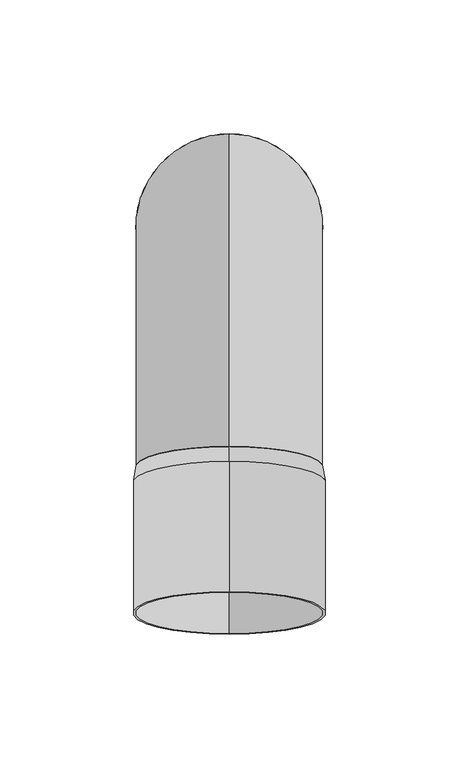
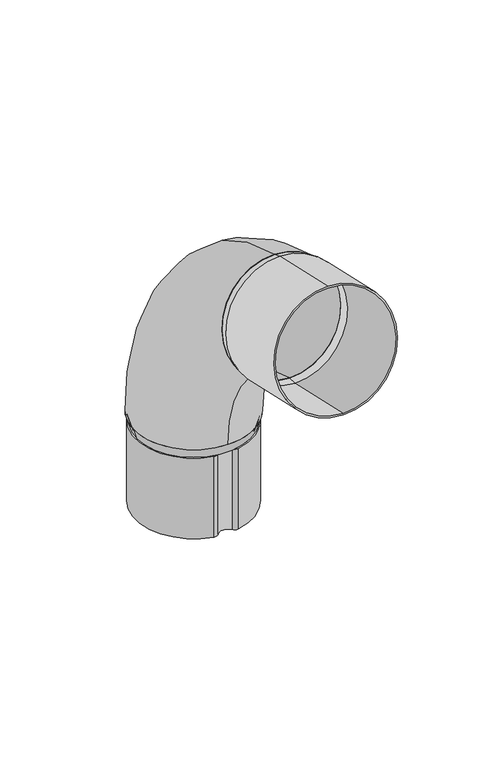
"""IFC4 building model written with IfcOpenShell, lengths in millimetres: proxy geometry, GROVIK_Downpipe_Elbow : N70_75°_Up."""

from ifc_helpers import new_model, si_unit, point, frame, frame_2d, origin, origin_with_axes, origin_2d, place, context, project, spatial, polyline, circle_curve, ellipse_curve, trimmed, segment, composite_curve, outline, extrude, source, transform, mapped, element, save
from ifc_brep_helpers import plane_surface, revolved_surface, advanced_brep


def generic_models_6aef1a14(model_context):
    return source(origin(), model_context, "Body", "SolidModel", [
        advanced_brep(
        [(0.0, 35.0, 0.0), (0.0, -35.0, 0.0), (0.0, 34.0, 0.0), (0.0, -34.0, 0.0), (0.0, -82.0, 146.3249808), (0.0, -97.4, 78.0399897), (0.0, -82.22, 145.3494809), (0.0, -97.18, 79.0154896)],
        [
            (0, 1, circle_curve(frame((0.0, 0.0, 0.0), z_axis=(0.0, 0.0, -1.0), x_axis=(0.0, -1.0, 0.0)), 35.0)),
            (1, 0, circle_curve(frame((0.0, 0.0, 0.0), z_axis=(0.0, 0.0, -1.0), x_axis=(0.0, -1.0, 0.0)), 35.0)),
            (2, 3, circle_curve(frame((0.0, 0.0, 0.0), z_axis=(0.0, 0.0, 1.0), x_axis=(0.0, -1.0, 0.0)), 34.0)),
            (3, 2, circle_curve(frame((0.0, 0.0, 0.0), z_axis=(0.0, 0.0, 1.0), x_axis=(0.0, -1.0, 0.0)), 34.0)),
            (4, 5, circle_curve(frame((0.0, -89.7, 112.1824853), z_axis=(0.0, -0.9754998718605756, 0.22000000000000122), x_axis=(0.0, -0.22000000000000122, -0.9754998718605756)), 35.0)),
            (5, 4, circle_curve(frame((0.0, -89.7, 112.1824853), z_axis=(0.0, -0.9754998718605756, 0.22000000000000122), x_axis=(0.0, -0.22000000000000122, -0.9754998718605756)), 35.0)),
            (6, 7, circle_curve(frame((0.0, -89.7, 112.1824853), z_axis=(0.0, 0.9754998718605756, -0.22000000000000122), x_axis=(0.0, -0.22000000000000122, -0.9754998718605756)), 34.0)),
            (7, 6, circle_curve(frame((0.0, -89.7, 112.1824853), z_axis=(0.0, 0.9754998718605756, -0.22000000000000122), x_axis=(0.0, -0.22000000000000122, -0.9754998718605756)), 34.0)),
            (7, 3, circle_curve(frame((0.0, -115.0, 0.0), z_axis=(-1.0, 0.0, 0.0), x_axis=(0.0, 1.0, 0.0)), 81.0)),
            (2, 6, circle_curve(frame((0.0, -115.0, 0.0), z_axis=(1.0, 0.0, 0.0), x_axis=(0.0, 1.0, 0.0)), 149.0)),
            (5, 1, circle_curve(frame((0.0, -115.0, 0.0), z_axis=(-1.0, 0.0, 0.0), x_axis=(0.0, 1.0, 0.0)), 80.0)),
            (0, 4, circle_curve(frame((0.0, -115.0, 0.0), z_axis=(1.0, 0.0, 0.0), x_axis=(0.0, 1.0, 0.0)), 150.0)),
        ],
        [
            plane_surface(frame((0.0, 0.0, 0.0), z_axis=(0.0, 0.0, -1.0), x_axis=(1.0, 0.0, 0.0))),
            plane_surface(frame((0.0, -89.7, 112.1824853), z_axis=(0.0, -0.9754998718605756, 0.22000000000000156), x_axis=(1.0, 0.0, 0.0))),
            revolved_surface(trimmed(ellipse_curve(frame((0.0, 0.0, 0.0), z_axis=(0.0, 0.0, 1.0), x_axis=(0.0, -1.0, 0.0)), 34.0, 34.0), [point((0.0, 34.0, 0.0))], [point((0.0, -34.0, 0.0))], True, "CARTESIAN"), (0.0, -115.0, 0.0), (1.0, 0.0, 0.0)),
            revolved_surface(trimmed(ellipse_curve(frame((0.0, 0.0, 0.0), z_axis=(0.0, 0.0, 1.0), x_axis=(0.0, -1.0, 0.0)), 34.0, 34.0), [point((0.0, -34.0, 0.0))], [point((0.0, 34.0, 0.0))], True, "CARTESIAN"), (0.0, -115.0, 0.0), (1.0, 0.0, 0.0)),
            revolved_surface(trimmed(ellipse_curve(frame((0.0, 0.0, 0.0), z_axis=(0.0, 0.0, -1.0), x_axis=(0.0, -1.0, 0.0)), 35.0, 35.0), [point((0.0, 35.0, 0.0))], [point((0.0, -35.0, 0.0))], True, "CARTESIAN"), (0.0, -115.0, 0.0), (1.0, 0.0, 0.0)),
            revolved_surface(trimmed(ellipse_curve(frame((0.0, 0.0, 0.0), z_axis=(0.0, 0.0, -1.0), x_axis=(0.0, -1.0, 0.0)), 35.0, 35.0), [point((0.0, -35.0, 0.0))], [point((0.0, 35.0, 0.0))], True, "CARTESIAN"), (0.0, -115.0, 0.0), (1.0, 0.0, 0.0)),
        ],
        [
            (0, [[1, 2], [3, 4]]),
            (1, [[5, 6], [7, 8]]),
            (2, [[9, -3, 10, -8]]),
            (3, [[-10, -4, -9, -7]]),
            (4, [[11, -1, 12, -6]]),
            (5, [[-12, -2, -11, -5]]),
        ],
    ),
        extrude(outline(composite_curve([segment(trimmed(circle_curve(origin_2d(), 36.0), [point((0.0, -36.0))], [point((0.0, 36.0))], False, "CARTESIAN"), True, "CONTINUOUS"), segment(trimmed(circle_curve(origin_2d(), 36.0), [point((0.0, 36.0))], [point((0.0, -36.0))], False, "CARTESIAN"), True, "CONTINUOUS")], self_intersect=False), holes=[composite_curve([segment(trimmed(circle_curve(origin_2d(), 35.0), [point((0.0, -35.0000001))], [point((0.0, 35.0))], True, "CARTESIAN"), True, "CONTINUOUS"), segment(trimmed(circle_curve(origin_2d(), 35.0), [point((0.0, 35.0))], [point((0.0, -35.0000001))], True, "CARTESIAN"), True, "CONTINUOUS")], self_intersect=False)]), frame((0.0, -95.5529992, 113.5024853), z_axis=(0.0, -0.975499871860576, 0.2199999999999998), x_axis=(1.0, 0.0, 0.0)), (0.0, 0.0, 1.0), 50.0),
        advanced_brep(
        [(-33.2, 0.0, -6.0), (33.2, 0.0, -6.0), (-32.2, 0.0, -6.0), (32.2, 0.0, -6.0), (-35.0, 0.0, 0.0), (35.0, 0.0, 0.0), (34.0, 0.0, 0.0), (-34.0, 0.0, 0.0)],
        [
            (0, 1, circle_curve(frame((0.0, 0.0, -6.0), z_axis=(0.0, 0.0, -1.0), x_axis=(-1.0, 0.0, 0.0)), 33.2)),
            (1, 0, circle_curve(frame((0.0, 0.0, -6.0), z_axis=(0.0, 0.0, -1.0), x_axis=(1.0, 0.0, 0.0)), 33.2)),
            (2, 3, circle_curve(frame((0.0, 0.0, -6.0), z_axis=(0.0, 0.0, 1.0), x_axis=(1.0, 0.0, 0.0)), 32.2)),
            (3, 2, circle_curve(frame((0.0, 0.0, -6.0), z_axis=(0.0, 0.0, 1.0), x_axis=(-1.0, 0.0, 0.0)), 32.2)),
            (4, 5, circle_curve(origin_with_axes(), 35.0)),
            (5, 4, circle_curve(frame((0.0, 0.0, 0.0), z_axis=(0.0, 0.0, 1.0), x_axis=(-1.0, 0.0, 0.0)), 35.0)),
            (6, 7, circle_curve(frame((0.0, 0.0, 0.0), z_axis=(0.0, 0.0, -1.0), x_axis=(1.0, 0.0, 0.0)), 34.0)),
            (7, 6, circle_curve(frame((0.0, 0.0, 0.0), z_axis=(0.0, 0.0, -1.0), x_axis=(-1.0, 0.0, 0.0)), 34.0)),
            (1, 5),
            (4, 0),
            (6, 3),
            (2, 7),
        ],
        [
            plane_surface(frame((0.0, 0.0, -6.0), z_axis=(0.0, 0.0, -1.0), x_axis=(0.0, 1.0, 0.0))),
            plane_surface(frame((0.0, 0.0, 0.0), z_axis=(0.0, 0.0, 1.0), x_axis=(0.0, 1.0, 0.0))),
            revolved_surface(polyline([(33.20000000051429, 0.0, -6.0), (35.0, 0.0, 0.0)]), (0.0, 0.0, -116.6666667), (0.0, 0.0, 1.0)),
            revolved_surface(polyline([(-33.20000000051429, 0.0, -6.0), (-35.0, 0.0, 0.0)]), (0.0, 0.0, -116.6666667), (0.0, 0.0, 1.0)),
            revolved_surface(polyline([(34.0, 0.0, 0.0), (32.19999999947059, 0.0, -6.0)]), (0.0, 0.0, -113.3333333), (0.0, 0.0, 1.0)),
        ],
        [
            (0, [[1, 2], [3, 4]]),
            (1, [[5, 6], [7, 8]]),
            (2, [[-2, 9, -5, 10]]),
            (3, [[-1, -10, -6, -9]]),
            (4, [[11, -3, 12, -7]]),
            (4, [[-11, -8, -12, -4]]),
        ],
    ),
        extrude(outline(composite_curve([segment(trimmed(circle_curve(frame_2d((-6.6504209, 30.1934466)), 3.0848069), [point((-7.2, 33.2289031))], [point((-4.2037022, 32.0721698))], False, "CARTESIAN"), True, "CONTINUOUS"), segment(trimmed(circle_curve(frame_2d((0.0, 35.3)), 5.3), [point((-4.2037022, 32.0721698))], [point((4.2058428, 32.0749594))], True, "CARTESIAN"), True, "CONTINUOUS"), segment(trimmed(circle_curve(frame_2d((6.6465812, 30.203401)), 3.0757007), [point((4.2058428, 32.0749594))], [point((7.2, 33.2289031))], False, "CARTESIAN"), True, "CONTINUOUS"), segment(trimmed(circle_curve(origin_2d(), 34.0), [point((7.2, 33.2289031))], [point((7.2, -33.2289031))], False, "CARTESIAN"), True, "CONTINUOUS"), segment(trimmed(circle_curve(frame_2d((6.6465812, -30.203401)), 3.0757007), [point((7.2, -33.2289031))], [point((4.2058428, -32.0749594))], False, "CARTESIAN"), True, "CONTINUOUS"), segment(trimmed(circle_curve(frame_2d((0.0, -35.3)), 5.3), [point((4.2058428, -32.0749594))], [point((-4.2037022, -32.0721698))], True, "CARTESIAN"), True, "CONTINUOUS"), segment(trimmed(circle_curve(frame_2d((-6.6504209, -30.1934466)), 3.0848069), [point((-4.2037022, -32.0721698))], [point((-7.2, -33.2289031))], False, "CARTESIAN"), True, "CONTINUOUS"), segment(trimmed(circle_curve(origin_2d(), 34.0), [point((-7.2, -33.2289031))], [point((-7.2, 33.2289031))], False, "CARTESIAN"), True, "CONTINUOUS")], self_intersect=False), holes=[composite_curve([segment(trimmed(circle_curve(origin_2d(), 33.0), [point((-7.1903364, 32.2071275))], [point((-7.1903364, -32.2071275))], True, "CARTESIAN"), True, "CONTINUOUS"), segment(trimmed(circle_curve(frame_2d((-6.6504209, -30.1934466)), 2.0848069), [point((-7.1903364, -32.2071275))], [point((-4.9968535, -31.4631452))], True, "CARTESIAN"), True, "CONTINUOUS"), segment(trimmed(circle_curve(frame_2d((0.0, -35.3)), 6.3), [point((-4.9968535, -31.4631452))], [point((4.999398, -31.4664612))], False, "CARTESIAN"), True, "CONTINUOUS"), segment(trimmed(circle_curve(frame_2d((6.6465812, -30.203401)), 2.0757007), [point((4.999398, -31.4664612))], [point((7.1790209, -32.2096516))], True, "CARTESIAN"), True, "CONTINUOUS"), segment(trimmed(circle_curve(origin_2d(), 33.0), [point((7.1790209, -32.2096516))], [point((7.1790209, 32.2096516))], True, "CARTESIAN"), True, "CONTINUOUS"), segment(trimmed(circle_curve(frame_2d((6.6465812, 30.203401)), 2.0757007), [point((7.1790209, 32.2096516))], [point((4.999398, 31.4664612))], True, "CARTESIAN"), True, "CONTINUOUS"), segment(trimmed(circle_curve(frame_2d((0.0, 35.3)), 6.3), [point((4.999398, 31.4664612))], [point((-4.9968535, 31.4631452))], False, "CARTESIAN"), True, "CONTINUOUS"), segment(trimmed(circle_curve(frame_2d((-6.6504209, 30.1934466)), 2.0848069), [point((-4.9968535, 31.4631452))], [point((-7.1903364, 32.2071275))], True, "CARTESIAN"), True, "CONTINUOUS")], self_intersect=False)]), frame((0.0, 0.0, -56.0), z_axis=(0.0, 0.0, 1.0), x_axis=(1.0, 0.0, 0.0)), (0.0, 0.0, 1.0), 50.0),
        advanced_brep(
        [(0.0, -97.4, 78.0399897), (0.0, -82.0, 146.3249808), (0.0, -97.18, 79.0154896), (0.0, -82.22, 145.3494809), (0.0, -103.4729992, 78.3844899), (0.0, -87.6329992, 148.6204807), (0.0, -87.8529992, 147.6449808), (0.0, -103.2529992, 79.3599897)],
        [
            (0, 1, circle_curve(frame((0.0, -89.7, 112.1824853), z_axis=(0.0, 0.9754998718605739, -0.2200000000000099), x_axis=(0.0, -0.22000000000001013, -0.9754998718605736)), 35.0)),
            (1, 0, circle_curve(frame((0.0, -89.7, 112.1824853), z_axis=(0.0, 0.9754998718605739, -0.2200000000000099), x_axis=(0.0, 0.22000000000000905, 0.9754998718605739)), 35.0)),
            (2, 3, circle_curve(frame((0.0, -89.7, 112.1824853), z_axis=(0.0, -0.9754998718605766, 0.2199999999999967), x_axis=(0.0, 0.21999999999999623, 0.9754998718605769)), 34.0)),
            (3, 2, circle_curve(frame((0.0, -89.7, 112.1824853), z_axis=(0.0, -0.9754998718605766, 0.2199999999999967), x_axis=(0.0, -0.21999999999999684, -0.9754998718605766)), 34.0)),
            (4, 5, circle_curve(frame((0.0, -95.5529992, 113.5024853), z_axis=(0.0, -0.9754998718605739, 0.2200000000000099), x_axis=(0.0, 0.22000000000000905, 0.9754998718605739)), 36.0)),
            (5, 4, circle_curve(frame((0.0, -95.5529992, 113.5024853), z_axis=(0.0, -0.9754998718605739, 0.2200000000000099), x_axis=(0.0, -0.22000000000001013, -0.9754998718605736)), 36.0)),
            (6, 7, circle_curve(frame((0.0, -95.5529992, 113.5024853), z_axis=(0.0, 0.9754998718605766, -0.2199999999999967), x_axis=(0.0, 0.21999999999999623, 0.9754998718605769)), 35.0)),
            (7, 6, circle_curve(frame((0.0, -95.5529992, 113.5024853), z_axis=(0.0, 0.9754998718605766, -0.2199999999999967), x_axis=(0.0, -0.21999999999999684, -0.9754998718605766)), 35.0)),
            (1, 5),
            (4, 0),
            (6, 3),
            (2, 7),
        ],
        [
            plane_surface(frame((0.0, -89.7, 112.1824853), z_axis=(0.0, 0.9754998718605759, -0.22000000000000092), x_axis=(-1.0, 0.0, 0.0))),
            plane_surface(frame((0.0, -95.5529992, 113.5024853), z_axis=(0.0, -0.9754998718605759, 0.22000000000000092), x_axis=(-1.0, 0.0, 0.0))),
            revolved_surface(polyline([(0.0, -81.99999997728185, 146.32498083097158), (0.0, -87.6329992, 148.6204807)]), (0.0, 115.1549731, 65.9824853), (0.0, -0.9754998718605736, 0.22000000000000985)),
            revolved_surface(polyline([(0.0, -97.39999998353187, 78.03998977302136), (0.0, -103.47299920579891, 78.38448990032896)]), (0.0, 115.1549731, 65.9824853), (0.0, -0.9754998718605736, 0.22000000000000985)),
            revolved_surface(polyline([(0.0, -87.85299920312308, 147.6449808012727), (0.0, -82.21999998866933, 145.34948093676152)]), (0.0, 109.3019739, 67.3024853), (0.0, -0.9754998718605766, 0.2199999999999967)),
        ],
        [
            (0, [[1, 2], [3, 4]]),
            (1, [[5, 6], [7, 8]]),
            (2, [[-2, 9, -5, 10]]),
            (3, [[-1, -10, -6, -9]]),
            (4, [[11, -3, 12, -7]]),
            (4, [[-11, -8, -12, -4]]),
        ],
    ),
    ])


if __name__ == "__main__":
    model = new_model("IFC4")
    model_context = context("Model", 3, world=origin())
    ifc_project = project(units=[si_unit("LENGTHUNIT", "METRE", prefix="MILLI")], contexts=[model_context])
    site = spatial("IfcSite", under=ifc_project)
    building = spatial("IfcBuilding", under=site)
    placement = place(None, origin())
    generic_models_shape = generic_models_6aef1a14(model_context)
    element("IfcBuildingElementProxy", 1, Name="GROVIK_Downpipe_Elbow : N70_75°_Up", ObjectType="GROVIK_Downpipe_Elbow : N70_75°_Up", at=placement, inside=building, context=model_context, shape_type="MappedRepresentation", body=[
        mapped(generic_models_shape, transform((0.0, 0.0, 0.0), x_axis=(1.0, 0.0, 0.0), y_axis=(0.0, 1.0, 0.0), z_axis=(0.0, 0.0, 1.0))),
    ])
    save(model, "model.ifc")
